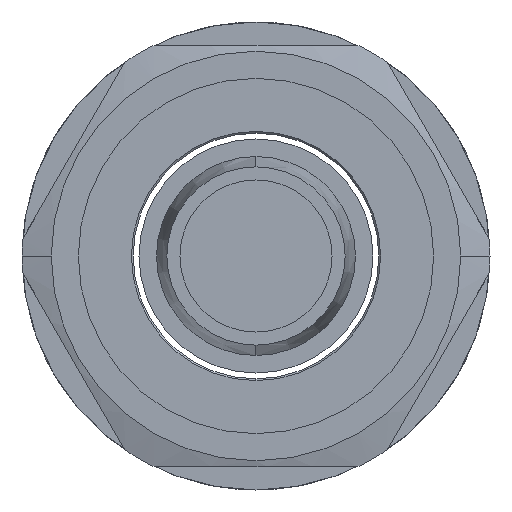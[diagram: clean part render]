
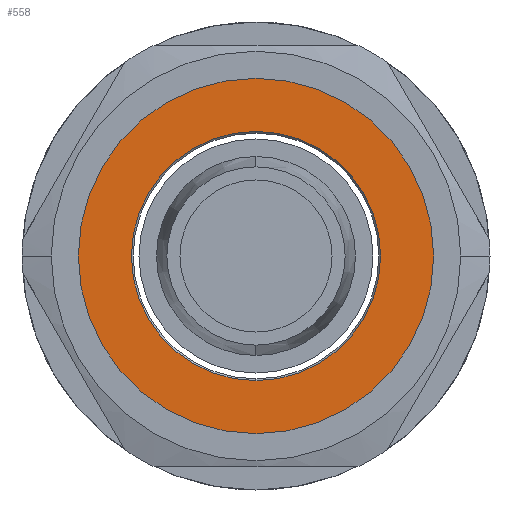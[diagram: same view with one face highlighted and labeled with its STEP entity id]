
A CAD part, front view. The second image highlights one B-rep face of the part: STEP entity #558.
In plain terms, the highlighted planar face has unit normal (0, -1, 0).
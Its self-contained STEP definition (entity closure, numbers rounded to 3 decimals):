
#214 = CARTESIAN_POINT ( 'NONE',  ( -16., -34.5, 0. ) ) ;
#498 = CIRCLE ( 'NONE', #1501, 16. ) ;
#558 = ADVANCED_FACE ( 'NONE', ( #3529, #4560 ), #617, .T. ) ;
#617 = PLANE ( 'NONE',  #1605 ) ;
#623 = AXIS2_PLACEMENT_3D ( 'NONE', #3722, #4942, #1129 ) ;
#1129 = DIRECTION ( 'NONE',  ( -1., 0., 0. ) ) ;
#1315 = AXIS2_PLACEMENT_3D ( 'NONE', #3617, #4461, #2375 ) ;
#1501 = AXIS2_PLACEMENT_3D ( 'NONE', #4495, #3321, #2543 ) ;
#1522 = CARTESIAN_POINT ( 'NONE',  ( 10.65, -34.5, 0. ) ) ;
#1548 = VERTEX_POINT ( 'NONE', #3494 ) ;
#1605 = AXIS2_PLACEMENT_3D ( 'NONE', #5163, #1958, #4063 ) ;
#1685 = ORIENTED_EDGE ( 'NONE', *, *, #3577, .F. ) ;
#1949 = EDGE_LOOP ( 'NONE', ( #4052, #1685 ) ) ;
#1956 = CIRCLE ( 'NONE', #3097, 16. ) ;
#1958 = DIRECTION ( 'NONE',  ( 0., -1., 0. ) ) ;
#2375 = DIRECTION ( 'NONE',  ( -1., 0., 0. ) ) ;
#2543 = DIRECTION ( 'NONE',  ( -1., 0., 0. ) ) ;
#2608 = DIRECTION ( 'NONE',  ( 0., -1., 0. ) ) ;
#2844 = CIRCLE ( 'NONE', #623, 10.65 ) ;
#2990 = CARTESIAN_POINT ( 'NONE',  ( -10.65, -34.5, 0. ) ) ;
#3097 = AXIS2_PLACEMENT_3D ( 'NONE', #3492, #2608, #3870 ) ;
#3153 = EDGE_CURVE ( 'NONE', #1548, #5223, #1956, .T. ) ;
#3166 = ORIENTED_EDGE ( 'NONE', *, *, #3153, .T. ) ;
#3321 = DIRECTION ( 'NONE',  ( 0., -1., 0. ) ) ;
#3492 = CARTESIAN_POINT ( 'NONE',  ( 0., -34.5, 0. ) ) ;
#3494 = CARTESIAN_POINT ( 'NONE',  ( 16., -34.5, 0. ) ) ;
#3529 = FACE_BOUND ( 'NONE', #1949, .T. ) ;
#3577 = EDGE_CURVE ( 'NONE', #4362, #4156, #4412, .T. ) ;
#3617 = CARTESIAN_POINT ( 'NONE',  ( 0., -34.5, 0. ) ) ;
#3722 = CARTESIAN_POINT ( 'NONE',  ( 0., -34.5, 0. ) ) ;
#3870 = DIRECTION ( 'NONE',  ( -1., 0., 0. ) ) ;
#4052 = ORIENTED_EDGE ( 'NONE', *, *, #4584, .F. ) ;
#4063 = DIRECTION ( 'NONE',  ( -1., 0., 0. ) ) ;
#4156 = VERTEX_POINT ( 'NONE', #2990 ) ;
#4172 = ORIENTED_EDGE ( 'NONE', *, *, #4179, .T. ) ;
#4179 = EDGE_CURVE ( 'NONE', #5223, #1548, #498, .T. ) ;
#4362 = VERTEX_POINT ( 'NONE', #1522 ) ;
#4412 = CIRCLE ( 'NONE', #1315, 10.65 ) ;
#4461 = DIRECTION ( 'NONE',  ( 0., -1., 0. ) ) ;
#4495 = CARTESIAN_POINT ( 'NONE',  ( 0., -34.5, 0. ) ) ;
#4560 = FACE_OUTER_BOUND ( 'NONE', #5101, .T. ) ;
#4584 = EDGE_CURVE ( 'NONE', #4156, #4362, #2844, .T. ) ;
#4942 = DIRECTION ( 'NONE',  ( 0., -1., 0. ) ) ;
#5101 = EDGE_LOOP ( 'NONE', ( #4172, #3166 ) ) ;
#5163 = CARTESIAN_POINT ( 'NONE',  ( 0., -34.5, 0. ) ) ;
#5223 = VERTEX_POINT ( 'NONE', #214 ) ;
